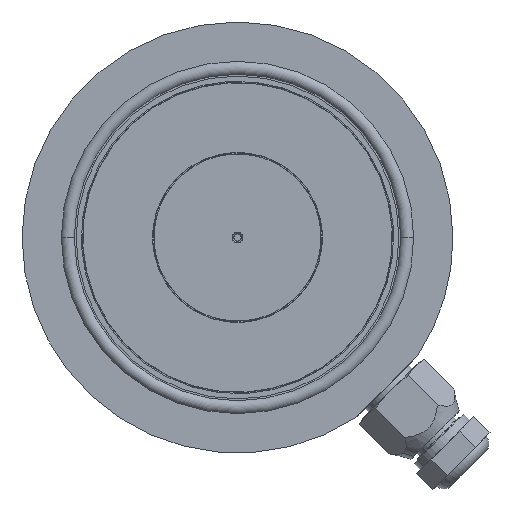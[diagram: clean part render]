
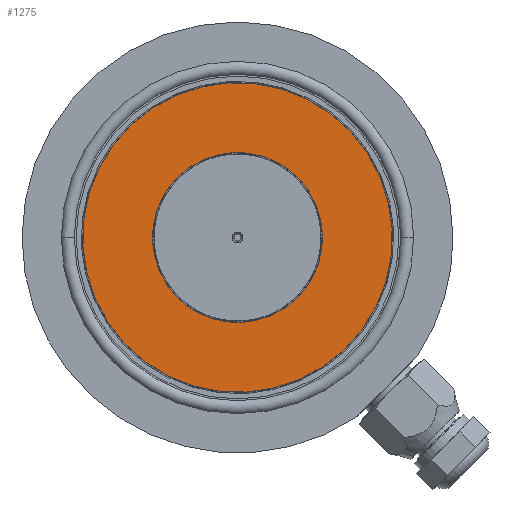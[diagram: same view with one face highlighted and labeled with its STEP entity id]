
A CAD part, front view. The second image highlights one B-rep face of the part: STEP entity #1275.
In plain terms, the highlighted planar face has unit normal (0, -1, 0) as drawn and (0, 1, 0) by its records, which use the part's own axes.
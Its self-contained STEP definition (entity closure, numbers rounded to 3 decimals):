
#46 = FACE_OUTER_BOUND ( 'NONE', #4202, .T. ) ;
#209 = DIRECTION ( 'NONE',  ( 0., 0., 1. ) ) ;
#406 = EDGE_CURVE ( 'NONE', #3168, #3031, #927, .T. ) ;
#573 = CIRCLE ( 'NONE', #3355, 43.1 ) ;
#598 = CARTESIAN_POINT ( 'NONE',  ( 0., 0., 0. ) ) ;
#909 = EDGE_LOOP ( 'NONE', ( #3370, #3077 ) ) ;
#912 = CARTESIAN_POINT ( 'NONE',  ( 0., 0., -23.675 ) ) ;
#927 = CIRCLE ( 'NONE', #5031, 23.675 ) ;
#1163 = ORIENTED_EDGE ( 'NONE', *, *, #4342, .T. ) ;
#1275 = ADVANCED_FACE ( 'NONE', ( #2219, #46 ), #1839, .T. ) ;
#1604 = AXIS2_PLACEMENT_3D ( 'NONE', #4500, #2011, #4907 ) ;
#1619 = CARTESIAN_POINT ( 'NONE',  ( 0., 0., 0. ) ) ;
#1803 = CARTESIAN_POINT ( 'NONE',  ( 0., 0., 0. ) ) ;
#1839 = PLANE ( 'NONE',  #4608 ) ;
#2011 = DIRECTION ( 'NONE',  ( 0., 1., 0. ) ) ;
#2046 = DIRECTION ( 'NONE',  ( 0., 1., 0. ) ) ;
#2217 = DIRECTION ( 'NONE',  ( 0., 0., 1. ) ) ;
#2219 = FACE_BOUND ( 'NONE', #909, .T. ) ;
#2446 = CIRCLE ( 'NONE', #1604, 43.1 ) ;
#2452 = DIRECTION ( 'NONE',  ( 0., 0., 1. ) ) ;
#2663 = DIRECTION ( 'NONE',  ( 0., 1., 0. ) ) ;
#2986 = AXIS2_PLACEMENT_3D ( 'NONE', #4534, #2046, #4949 ) ;
#3031 = VERTEX_POINT ( 'NONE', #912 ) ;
#3054 = CARTESIAN_POINT ( 'NONE',  ( 0., 0., 23.675 ) ) ;
#3077 = ORIENTED_EDGE ( 'NONE', *, *, #4728, .F. ) ;
#3168 = VERTEX_POINT ( 'NONE', #3054 ) ;
#3355 = AXIS2_PLACEMENT_3D ( 'NONE', #1803, #4707, #2217 ) ;
#3370 = ORIENTED_EDGE ( 'NONE', *, *, #406, .F. ) ;
#3420 = CIRCLE ( 'NONE', #2986, 23.675 ) ;
#3999 = CARTESIAN_POINT ( 'NONE',  ( 0., 0., -43.1 ) ) ;
#4137 = CARTESIAN_POINT ( 'NONE',  ( 0., 0., 43.1 ) ) ;
#4202 = EDGE_LOOP ( 'NONE', ( #5271, #1163 ) ) ;
#4342 = EDGE_CURVE ( 'NONE', #4622, #5106, #573, .T. ) ;
#4500 = CARTESIAN_POINT ( 'NONE',  ( 0., 0., 0. ) ) ;
#4519 = DIRECTION ( 'NONE',  ( 0., 1., 0. ) ) ;
#4534 = CARTESIAN_POINT ( 'NONE',  ( 0., 0., 0. ) ) ;
#4608 = AXIS2_PLACEMENT_3D ( 'NONE', #598, #2663, #209 ) ;
#4622 = VERTEX_POINT ( 'NONE', #3999 ) ;
#4674 = EDGE_CURVE ( 'NONE', #5106, #4622, #2446, .T. ) ;
#4707 = DIRECTION ( 'NONE',  ( 0., 1., 0. ) ) ;
#4728 = EDGE_CURVE ( 'NONE', #3031, #3168, #3420, .T. ) ;
#4907 = DIRECTION ( 'NONE',  ( 0., 0., 1. ) ) ;
#4949 = DIRECTION ( 'NONE',  ( 0., 0., 1. ) ) ;
#5031 = AXIS2_PLACEMENT_3D ( 'NONE', #1619, #4519, #2452 ) ;
#5106 = VERTEX_POINT ( 'NONE', #4137 ) ;
#5271 = ORIENTED_EDGE ( 'NONE', *, *, #4674, .T. ) ;
